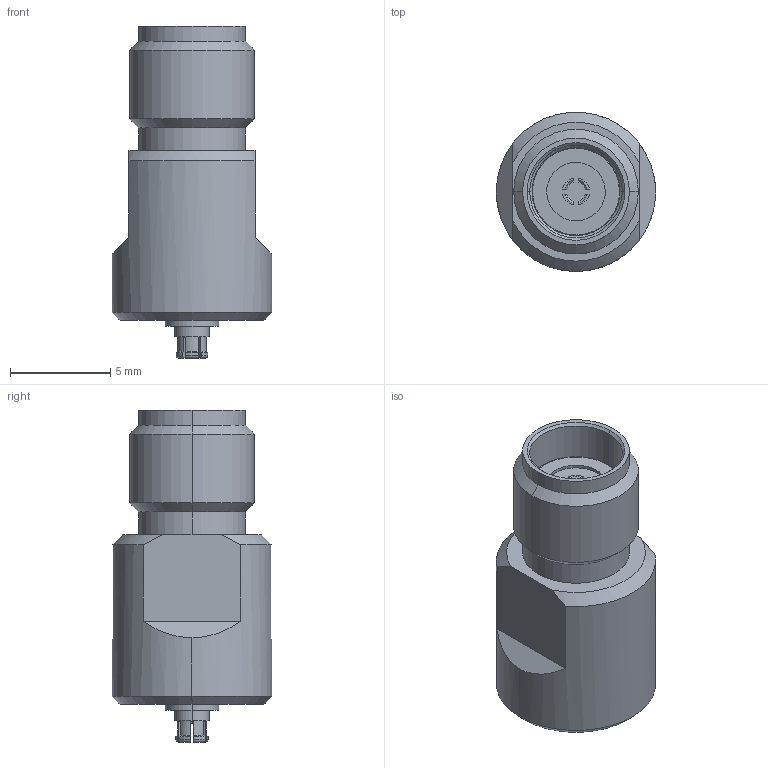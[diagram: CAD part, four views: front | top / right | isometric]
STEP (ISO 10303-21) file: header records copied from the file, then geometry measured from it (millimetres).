
FILE_DESCRIPTION (( 'STEP AP214' ), '1' );
FILE_NAME ('1138-6009.STEP', '2017-07-13T12:44:54', ( '' ), ( '' ), 'SwSTEP 2.0', 'SolidWorks 2016', '' );
FILE_SCHEMA (( 'AUTOMOTIVE_DESIGN' ));
Length unit declared in the file: inch
Products named in the file (1): 1138-6009
Bounding box: 7.95 x 7.95 x 16.58 mm (x, y, z)
Volume: 531.1 mm3; surface area: 466.9 mm2
Topology: 1 solids, 1 shells, 141 faces, 364 edges, 238 vertices
Faces by surface type: plane 61, cylinder 42, cone 32, torus 6
Entity records: 6446 total; most frequent: CARTESIAN_POINT 1140, DIRECTION 738, ORIENTED_EDGE 728, EDGE_CURVE 364, AXIS2_PLACEMENT_3D 288, VERTEX_POINT 238, LINE 162, VECTOR 162
